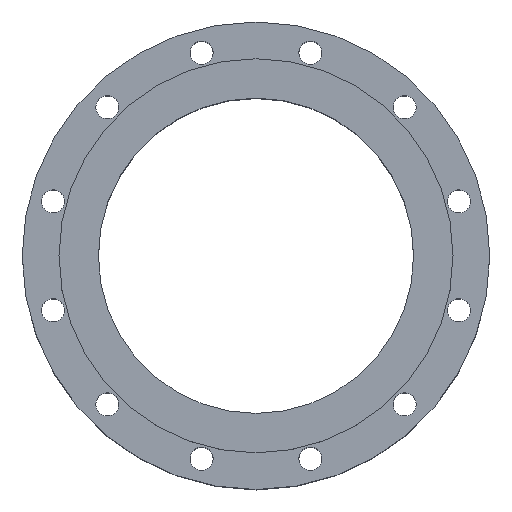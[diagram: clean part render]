
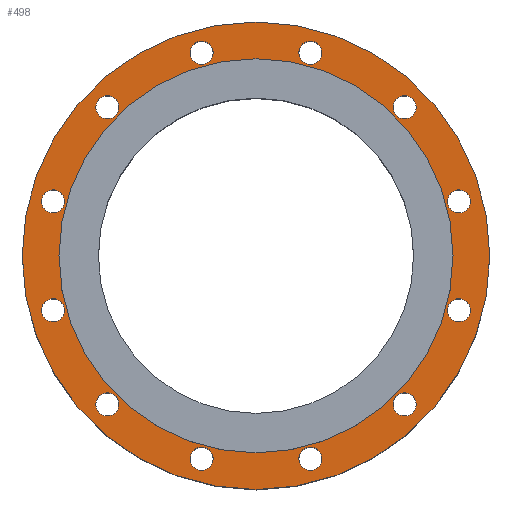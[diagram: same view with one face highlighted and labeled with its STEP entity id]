
A CAD part, top view. The second image highlights one B-rep face of the part: STEP entity #498.
In plain terms, the highlighted planar face has unit normal (0, 0, 1).
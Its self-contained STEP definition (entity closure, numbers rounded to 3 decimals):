
#498=ADVANCED_FACE('',(#1067,#1069,#1071,#1073,#1075,#1077,#1079,#1081,#1083,#1085,
#1087,#1089,#1091,#1093),#1095,.T.);
#1067=FACE_BOUND('',#1068,.T.);
#1068=EDGE_LOOP('',(#1388));
#1069=FACE_BOUND('',#1070,.T.);
#1070=EDGE_LOOP('',(#1389));
#1071=FACE_BOUND('',#1072,.T.);
#1072=EDGE_LOOP('',(#1390));
#1073=FACE_BOUND('',#1074,.T.);
#1074=EDGE_LOOP('',(#1391));
#1075=FACE_BOUND('',#1076,.T.);
#1076=EDGE_LOOP('',(#1392));
#1077=FACE_BOUND('',#1078,.T.);
#1078=EDGE_LOOP('',(#1393));
#1079=FACE_BOUND('',#1080,.T.);
#1080=EDGE_LOOP('',(#1394));
#1081=FACE_BOUND('',#1082,.T.);
#1082=EDGE_LOOP('',(#1395));
#1083=FACE_BOUND('',#1084,.T.);
#1084=EDGE_LOOP('',(#1396));
#1085=FACE_BOUND('',#1086,.T.);
#1086=EDGE_LOOP('',(#1397));
#1087=FACE_BOUND('',#1088,.T.);
#1088=EDGE_LOOP('',(#1398));
#1089=FACE_BOUND('',#1090,.T.);
#1090=EDGE_LOOP('',(#1399));
#1091=FACE_BOUND('',#1092,.T.);
#1092=EDGE_LOOP('',(#1400));
#1093=FACE_BOUND('',#1094,.T.);
#1094=EDGE_LOOP('',(#1401));
#1095=PLANE('',#1096);
#1096=AXIS2_PLACEMENT_3D('',#1097,#1098,#1099);
#1097=CARTESIAN_POINT('',(0.,0.,112.5));
#1098=DIRECTION('',(0.,0.,1.));
#1099=DIRECTION('',(0.,1.,0.));
#1388=ORIENTED_EDGE('',*,*,#1508,.F.);
#1389=ORIENTED_EDGE('',*,*,#1509,.T.);
#1390=ORIENTED_EDGE('',*,*,#1510,.T.);
#1391=ORIENTED_EDGE('',*,*,#1511,.T.);
#1392=ORIENTED_EDGE('',*,*,#1512,.T.);
#1393=ORIENTED_EDGE('',*,*,#1513,.T.);
#1394=ORIENTED_EDGE('',*,*,#1514,.T.);
#1395=ORIENTED_EDGE('',*,*,#1515,.T.);
#1396=ORIENTED_EDGE('',*,*,#1516,.T.);
#1397=ORIENTED_EDGE('',*,*,#1517,.T.);
#1398=ORIENTED_EDGE('',*,*,#1518,.T.);
#1399=ORIENTED_EDGE('',*,*,#1519,.T.);
#1400=ORIENTED_EDGE('',*,*,#1534,.T.);
#1401=ORIENTED_EDGE('',*,*,#1520,.T.);
#1508=EDGE_CURVE('',#1678,#1678,#1679,.T.);
#1509=EDGE_CURVE('',#1680,#1680,#1681,.T.);
#1510=EDGE_CURVE('',#1682,#1682,#1683,.T.);
#1511=EDGE_CURVE('',#1684,#1684,#1685,.T.);
#1512=EDGE_CURVE('',#1686,#1686,#1687,.T.);
#1513=EDGE_CURVE('',#1688,#1688,#1689,.T.);
#1514=EDGE_CURVE('',#1690,#1690,#1691,.T.);
#1515=EDGE_CURVE('',#1692,#1692,#1693,.T.);
#1516=EDGE_CURVE('',#1694,#1694,#1695,.T.);
#1517=EDGE_CURVE('',#1696,#1696,#1697,.T.);
#1518=EDGE_CURVE('',#1698,#1698,#1699,.T.);
#1519=EDGE_CURVE('',#1700,#1700,#1701,.T.);
#1520=EDGE_CURVE('',#1702,#1702,#1703,.T.);
#1534=EDGE_CURVE('',#1730,#1730,#1731,.T.);
#1678=VERTEX_POINT('',#2980);
#1679=CIRCLE('',#2981,222.5);
#1680=VERTEX_POINT('',#2985);
#1681=CIRCLE('',#2986,11.);
#1682=VERTEX_POINT('',#2990);
#1683=CIRCLE('',#2991,11.);
#1684=VERTEX_POINT('',#2995);
#1685=CIRCLE('',#2996,11.);
#1686=VERTEX_POINT('',#3000);
#1687=CIRCLE('',#3001,11.);
#1688=VERTEX_POINT('',#3005);
#1689=CIRCLE('',#3006,11.);
#1690=VERTEX_POINT('',#3010);
#1691=CIRCLE('',#3011,11.);
#1692=VERTEX_POINT('',#3015);
#1693=CIRCLE('',#3016,11.);
#1694=VERTEX_POINT('',#3020);
#1695=CIRCLE('',#3021,11.);
#1696=VERTEX_POINT('',#3025);
#1697=CIRCLE('',#3026,11.);
#1698=VERTEX_POINT('',#3030);
#1699=CIRCLE('',#3031,11.);
#1700=VERTEX_POINT('',#3035);
#1701=CIRCLE('',#3036,11.);
#1702=VERTEX_POINT('',#3040);
#1703=CIRCLE('',#3041,11.);
#1730=VERTEX_POINT('',#3110);
#1731=CIRCLE('',#3111,187.5);
#2980=CARTESIAN_POINT('',(0.,222.5,112.5));
#2981=AXIS2_PLACEMENT_3D('',#2982,#2983,#2984);
#2982=CARTESIAN_POINT('',(0.,0.,112.5));
#2983=DIRECTION('',(0.,0.,-1.));
#2984=DIRECTION('',(0.,1.,0.));
#2985=CARTESIAN_POINT('',(131.895,146.921,112.5));
#2986=AXIS2_PLACEMENT_3D('',#2987,#2988,#2989);
#2987=CARTESIAN_POINT('',(141.421,141.421,112.5));
#2988=DIRECTION('',(0.,0.,-1.));
#2989=DIRECTION('',(-0.866,0.5,0.));
#2990=CARTESIAN_POINT('',(187.685,61.29,112.5));
#2991=AXIS2_PLACEMENT_3D('',#2992,#2993,#2994);
#2992=CARTESIAN_POINT('',(193.185,51.764,112.5));
#2993=DIRECTION('',(0.,0.,-1.));
#2994=DIRECTION('',(-0.5,0.866,0.));
#2995=CARTESIAN_POINT('',(193.185,-40.764,112.5));
#2996=AXIS2_PLACEMENT_3D('',#2997,#2998,#2999);
#2997=CARTESIAN_POINT('',(193.185,-51.764,112.5));
#2998=DIRECTION('',(0.,0.,-1.));
#2999=DIRECTION('',(0.,1.,0.));
#3000=CARTESIAN_POINT('',(146.921,-131.895,112.5));
#3001=AXIS2_PLACEMENT_3D('',#3002,#3003,#3004);
#3002=CARTESIAN_POINT('',(141.421,-141.421,112.5));
#3003=DIRECTION('',(0.,0.,-1.));
#3004=DIRECTION('',(0.5,0.866,0.));
#3005=CARTESIAN_POINT('',(61.29,-187.685,112.5));
#3006=AXIS2_PLACEMENT_3D('',#3007,#3008,#3009);
#3007=CARTESIAN_POINT('',(51.764,-193.185,112.5));
#3008=DIRECTION('',(0.,0.,-1.));
#3009=DIRECTION('',(0.866,0.5,0.));
#3010=CARTESIAN_POINT('',(-40.764,-193.185,112.5));
#3011=AXIS2_PLACEMENT_3D('',#3012,#3013,#3014);
#3012=CARTESIAN_POINT('',(-51.764,-193.185,112.5));
#3013=DIRECTION('',(0.,0.,-1.));
#3014=DIRECTION('',(1.,0.,0.));
#3015=CARTESIAN_POINT('',(-131.895,-146.921,112.5));
#3016=AXIS2_PLACEMENT_3D('',#3017,#3018,#3019);
#3017=CARTESIAN_POINT('',(-141.421,-141.421,112.5));
#3018=DIRECTION('',(0.,0.,-1.));
#3019=DIRECTION('',(0.866,-0.5,0.));
#3020=CARTESIAN_POINT('',(-187.685,-61.29,112.5));
#3021=AXIS2_PLACEMENT_3D('',#3022,#3023,#3024);
#3022=CARTESIAN_POINT('',(-193.185,-51.764,112.5));
#3023=DIRECTION('',(0.,0.,-1.));
#3024=DIRECTION('',(0.5,-0.866,0.));
#3025=CARTESIAN_POINT('',(-193.185,40.764,112.5));
#3026=AXIS2_PLACEMENT_3D('',#3027,#3028,#3029);
#3027=CARTESIAN_POINT('',(-193.185,51.764,112.5));
#3028=DIRECTION('',(0.,0.,-1.));
#3029=DIRECTION('',(0.,-1.,0.));
#3030=CARTESIAN_POINT('',(-146.921,131.895,112.5));
#3031=AXIS2_PLACEMENT_3D('',#3032,#3033,#3034);
#3032=CARTESIAN_POINT('',(-141.421,141.421,112.5));
#3033=DIRECTION('',(0.,0.,-1.));
#3034=DIRECTION('',(-0.5,-0.866,0.));
#3035=CARTESIAN_POINT('',(-61.29,187.685,112.5));
#3036=AXIS2_PLACEMENT_3D('',#3037,#3038,#3039);
#3037=CARTESIAN_POINT('',(-51.764,193.185,112.5));
#3038=DIRECTION('',(0.,0.,-1.));
#3039=DIRECTION('',(-0.866,-0.5,0.));
#3040=CARTESIAN_POINT('',(40.764,193.185,112.5));
#3041=AXIS2_PLACEMENT_3D('',#3042,#3043,#3044);
#3042=CARTESIAN_POINT('',(51.764,193.185,112.5));
#3043=DIRECTION('',(0.,0.,-1.));
#3044=DIRECTION('',(-1.,0.,0.));
#3110=CARTESIAN_POINT('',(0.,187.5,112.5));
#3111=AXIS2_PLACEMENT_3D('',#3112,#3113,#3114);
#3112=CARTESIAN_POINT('',(0.,0.,112.5));
#3113=DIRECTION('',(0.,0.,-1.));
#3114=DIRECTION('',(0.,1.,0.));
